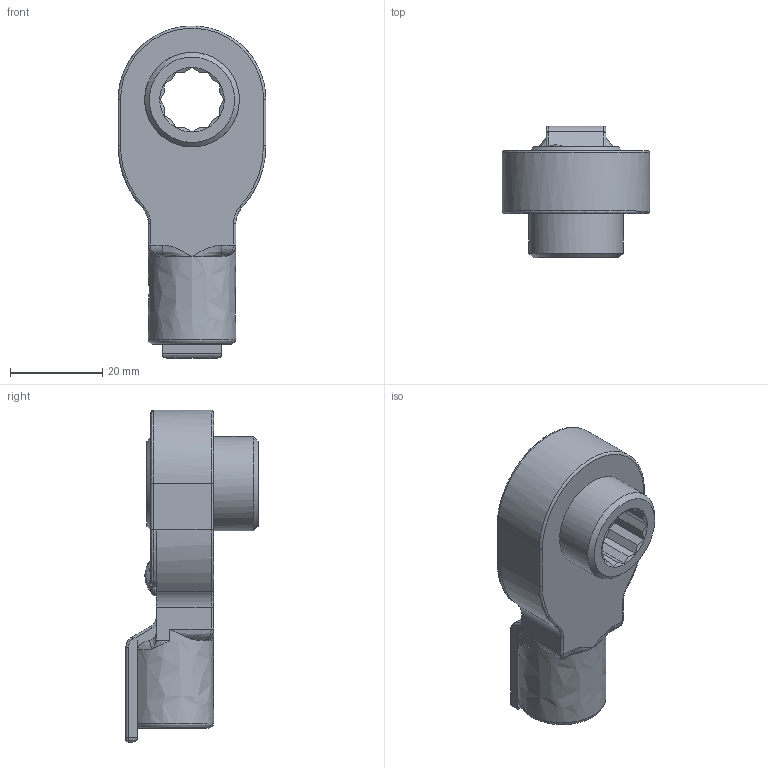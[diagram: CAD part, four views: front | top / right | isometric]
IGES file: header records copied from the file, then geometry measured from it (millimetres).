
Global section: file name: RQH12DX12; native system: Autodesk Inventor 2017; preprocessor: unknown; author: q603; date: 20170209.111359; units: millimetre
Bounding box: 32 x 28.65 x 71.99 mm (x, y, z)
Volume: 21630.8 mm3; surface area: 7882.6 mm2
Topology: 1 solids, 1 shells, 185 faces, 489 edges, 303 vertices
Faces by surface type: bspline 185
